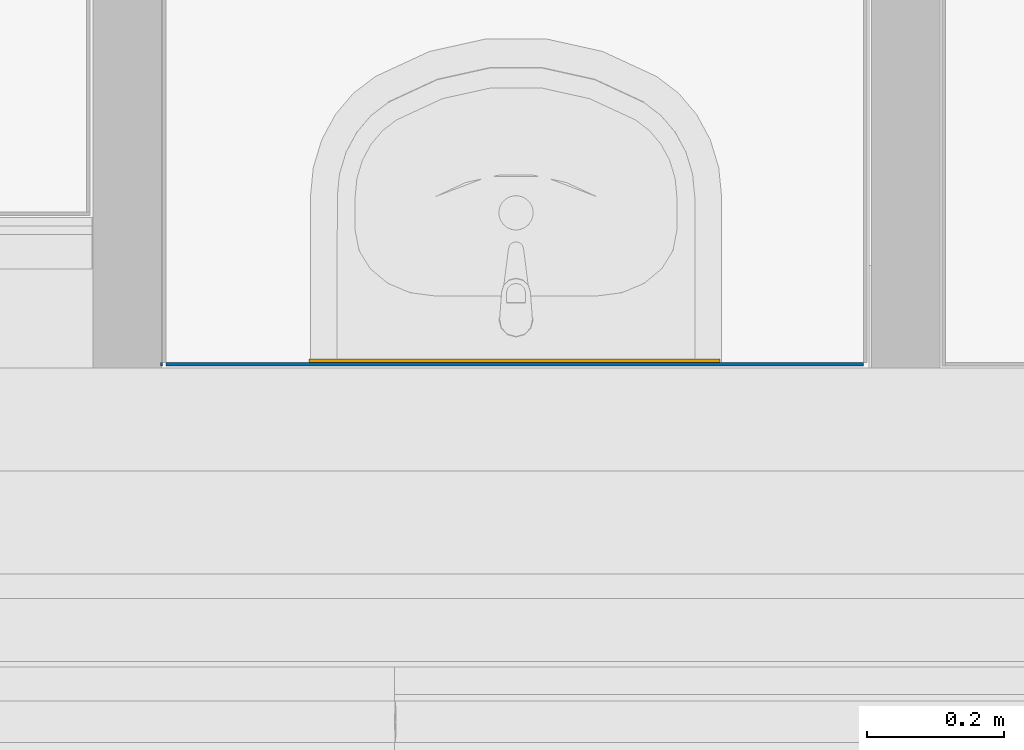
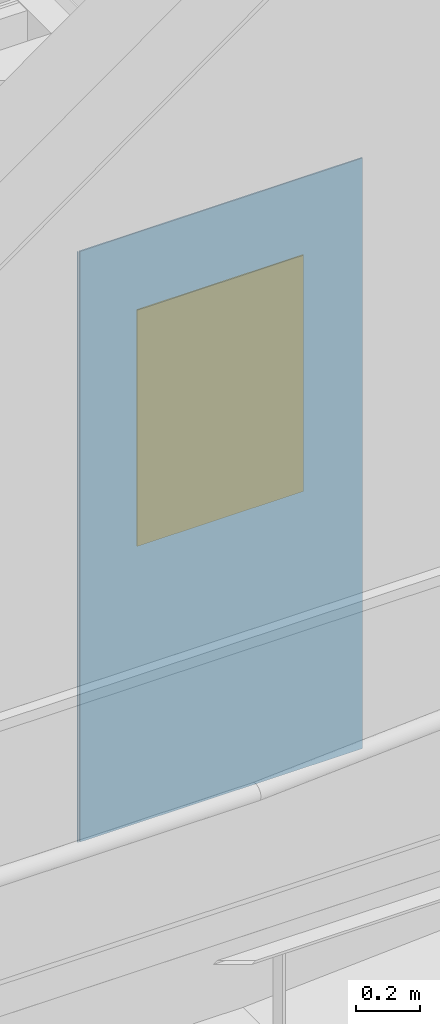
# One storey, part 3 of 788: 1 wall, 1 window, 1 opening.
"""IFC2X3 building model written with IfcOpenShell, lengths in millimetres."""

from ifc_helpers import new_model, entity, si_unit, converted_unit, derived_unit, money_unit, direction, frame, origin_with_axes, place, context, subcontext, project, spatial, faceted_brep, source, transform, mapped, material, type_object, type_shapes, element, fill, save


model = new_model("IFC2X3")

# Units and contexts
model_context = context("Model", 3, precision=0.01, world=origin_with_axes(), true_north=direction((0.0, 1.0)))
plan_context = context("Plan", 3, precision=0.01, world=origin_with_axes(), true_north=direction((0.0, 1.0)))
body_context = subcontext(model_context, "Body", "Model", "MODEL_VIEW")
ifc_project = project(units=[si_unit("LENGTHUNIT", "METRE", prefix="MILLI"), si_unit("AREAUNIT", "SQUARE_METRE"), si_unit("VOLUMEUNIT", "CUBIC_METRE"), converted_unit("PLANEANGLEUNIT", "DEGREE", entity("IfcPlaneAngleMeasure", 0.0174532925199), si_unit("PLANEANGLEUNIT", "RADIAN"), dimensions=[0, 0, 0, 0, 0, 0, 0]), money_unit("EUR"), converted_unit("TIMEUNIT", "Year", entity("IfcTimeMeasure", 31556926.0), si_unit("TIMEUNIT", "SECOND"), dimensions=[0, 0, 1, 0, 0, 0, 0]), si_unit("MASSUNIT", "GRAM", prefix="KILO"), si_unit("THERMODYNAMICTEMPERATUREUNIT", "DEGREE_CELSIUS"), si_unit("LUMINOUSINTENSITYUNIT", "LUMEN"), si_unit("ENERGYUNIT", "JOULE", prefix="MEGA"), derived_unit("THERMALCONDUCTANCEUNIT", [(si_unit("POWERUNIT", "WATT"), 1), (si_unit("LENGTHUNIT", "METRE"), -1), (si_unit("THERMODYNAMICTEMPERATUREUNIT", "KELVIN"), -1)]), derived_unit("SPECIFICHEATCAPACITYUNIT", [(si_unit("ENERGYUNIT", "JOULE"), 1), (si_unit("MASSUNIT", "GRAM", prefix="KILO"), -1), (si_unit("THERMODYNAMICTEMPERATUREUNIT", "KELVIN"), -1)]), derived_unit("MASSDENSITYUNIT", [(si_unit("MASSUNIT", "GRAM", prefix="KILO"), 1), (si_unit("VOLUMEUNIT", "CUBIC_METRE"), -1)])], contexts=[model_context, plan_context])

# Site, building, storey
site_placement = place(None, origin_with_axes())
site = spatial("IfcSite", under=ifc_project, at=site_placement, Name="Site", CompositionType="ELEMENT")
building_placement = place(site_placement, origin_with_axes())
building = spatial("IfcBuilding", under=site, at=building_placement, Name="Naam gebouw", CompositionType="ELEMENT")
storey_placement = place(building_placement, origin_with_axes())
storey = spatial("IfcBuildingStorey", under=building, at=storey_placement, Name="Begane grond", CompositionType="ELEMENT", Elevation=0.0)

# Wall, opening, window
ifc_material = material(Name="AFW - Wandtegelwerk")
wall_type = type_object("IfcWallType", Name="AFW - Wandtegelwerk 5", PredefinedType="ELEMENTEDWALL")
wall_placement = place(storey_placement, frame((69704.3856137, -57945.9590931, 900.0), z_axis=(0.0, 0.0, 1.0), x_axis=(1.0, 0.0, 0.0)))
wall = element("IfcWall", 1, at=wall_placement, inside=storey, type_object=wall_type, material=ifc_material, Name="Wandtegelwerk", context=body_context, shape_type="Brep", body=[
    faceted_brep([(1025.59405866, -5.0, 2250.0), (1025.59405866, 0.0, 2250.0), (7.63104267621, 0.0, 2250.0), (7.63104267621, -5.0, 2250.0), (1025.59405866, -5.0, 0.0), (1025.59405866, 0.0, 0.0), (7.63104267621, 0.0, 0.0), (7.63104267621, -5.0, 0.0)], [[[0, 1, 2, 3]], [[1, 0, 4, 5]], [[1, 5, 6, 2]], [[7, 3, 2, 6]], [[4, 0, 3, 7]], [[5, 4, 7, 6]]]),
    faceted_brep([(2.63104267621, -5.0, 2250.0), (2.63104267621, 0.0, 2250.0), (0.0, 0.0, 2250.0), (0.0, -5.0, 2250.0), (2.63104267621, -5.0, 0.0), (2.63104267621, 0.0, 0.0), (0.0, 0.0, 0.0), (0.0, -5.0, 0.0)], [[[0, 1, 2, 3]], [[1, 0, 4, 5]], [[1, 5, 6, 2]], [[7, 3, 2, 6]], [[4, 0, 3, 7]], [[5, 4, 7, 6]]]),
])
opening_placement = place(wall_placement, frame((516.650871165, 0.0, 1050.0), z_axis=(0.0, 0.0, 1.0), x_axis=(1.0, 0.0, 0.0)))
opening = element("IfcOpeningElement", 2, at=opening_placement, cuts=wall, Name="nis tbv luifel", context=body_context, shape_type="Brep", body=[
    faceted_brep([(0.0, 1015.0, 0.0), (-10.0, 1005.0, 0.0), (-10.0, 1005.0, 10.0), (0.0, 1015.0, 10.0), (10.0, 1005.0, 0.0), (10.0, 1005.0, 10.0)], [[[0, 1, 2, 3]], [[0, 4, 1]], [[1, 4, 5, 2]], [[3, 2, 5]], [[4, 0, 3, 5]]]),
])
window_style = type_object("IfcWindowStyle", Name="R Uitstulping 25", ConstructionType="NOTDEFINED", OperationType="NOTDEFINED", ParameterTakesPrecedence=False, Sizeable=False)
shared_shape = source(origin_with_axes(), body_context, "Body", "Brep", [
    faceted_brep([(-300.0, 0.0, 0.0), (300.0, 0.0, 0.0), (300.0, 0.0, 900.0), (-300.0, 0.0, 900.0), (-300.0, 5.0, 0.0), (300.0, 5.0, 0.0), (300.0, 5.0, 900.0), (-300.0, 5.0, 900.0)], [[[0, 1, 2, 3]], [[0, 4, 5, 1]], [[1, 5, 6, 2]], [[3, 2, 6, 7]], [[4, 0, 3, 7]], [[5, 4, 7, 6]]]),
])
type_shapes(window_style, [shared_shape])
window_placement = place(opening_placement, frame((-300.0, 0.0, 0.0), z_axis=(0.0, 0.0, 1.0), x_axis=(1.0, 0.0, 0.0)))
window = element("IfcWindow", 3, at=window_placement, inside=storey, type_object=window_style, material=ifc_material, Name="nis tbv luifel", ObjectType="WINDOW", OverallHeight=900.0, OverallWidth=600.0, context=body_context, shape_type="MappedRepresentation", body=[
    mapped(shared_shape, transform((300.0, 0.0, 0.0))),
])
fill(opening, window)

save(model, "model.ifc")
